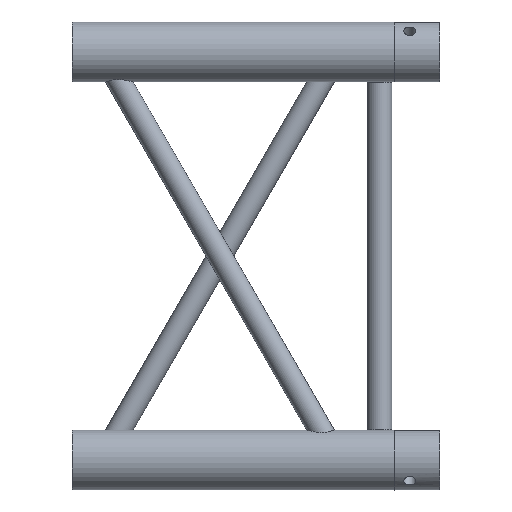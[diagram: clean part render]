
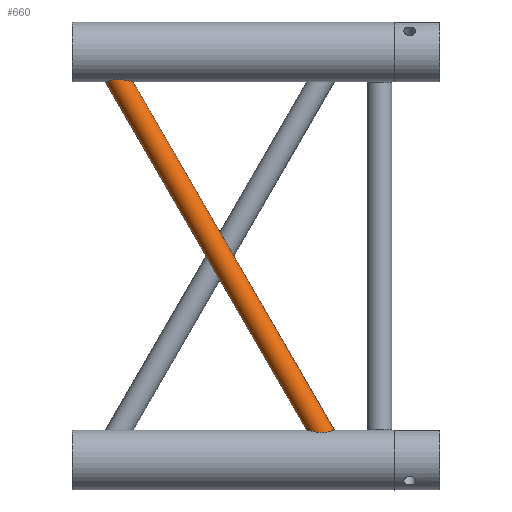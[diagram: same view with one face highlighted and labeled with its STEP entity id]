
A CAD part, front view. The second image highlights one B-rep face of the part: STEP entity #660.
In plain terms, the highlighted cylindrical face has radius 10 mm (diameter 20 mm), a full revolution.
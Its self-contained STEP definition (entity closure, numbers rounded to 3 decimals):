
#16=B_SPLINE_CURVE_WITH_KNOTS('',3,(#1081,#1082,#1083,#1084,#1085,#1086,
#1087,#1088,#1089,#1090,#1091,#1092,#1093,#1094,#1095,#1096,#1097,#1098,
#1099,#1100,#1101,#1102,#1103,#1104,#1105,#1106,#1107,#1108,#1109,#1110,
#1111,#1112,#1113,#1114),.UNSPECIFIED.,.T.,.F.,(4,2,2,2,2,2,2,2,2,2,2,2,
2,2,2,2,4),(0.,0.48,0.961,1.344,1.727,
2.111,2.494,2.974,3.455,3.858,
4.262,4.64,5.019,5.397,5.775,
6.179,6.583),.UNSPECIFIED.);
#17=B_SPLINE_CURVE_WITH_KNOTS('',3,(#1116,#1117,#1118,#1119,#1120,#1121,
#1122,#1123,#1124,#1125,#1126,#1127,#1128,#1129,#1130,#1131,#1132,#1133,
#1134,#1135,#1136,#1137,#1138,#1139,#1140,#1141,#1142,#1143,#1144,#1145,
#1146,#1147,#1148,#1149,#1150,#1151,#1152,#1153),.UNSPECIFIED.,.T.,.F.,
(4,2,2,2,2,2,2,2,2,2,2,2,2,2,2,2,2,2,4),(0.,0.452,0.905,
1.317,1.523,1.729,1.935,2.141,
2.552,3.005,3.457,3.864,4.271,
4.646,5.021,5.396,5.771,6.178,
6.586),.UNSPECIFIED.);
#43=FACE_BOUND('',#181,.T.);
#91=CYLINDRICAL_SURFACE('',#726,10.);
#127=FACE_OUTER_BOUND('',#180,.T.);
#180=EDGE_LOOP('',(#468));
#181=EDGE_LOOP('',(#469));
#316=VERTEX_POINT('',#1080);
#317=VERTEX_POINT('',#1115);
#380=EDGE_CURVE('',#316,#316,#16,.T.);
#381=EDGE_CURVE('',#317,#317,#17,.T.);
#468=ORIENTED_EDGE('',*,*,#380,.F.);
#469=ORIENTED_EDGE('',*,*,#381,.F.);
#660=ADVANCED_FACE('',(#127,#43),#91,.T.);
#726=AXIS2_PLACEMENT_3D('',#1079,#853,#854);
#853=DIRECTION('center_axis',(-0.5,0.,0.866));
#854=DIRECTION('ref_axis',(-0.866,0.,-0.5));
#1079=CARTESIAN_POINT('Origin',(100.826,-267.925,51.475));
#1080=CARTESIAN_POINT('',(109.487,-267.925,56.475));
#1081=CARTESIAN_POINT('Ctrl Pts',(99.145,-277.925,54.388));
#1082=CARTESIAN_POINT('Ctrl Pts',(97.544,-277.925,54.388));
#1083=CARTESIAN_POINT('Ctrl Pts',(95.84,-277.627,54.524));
#1084=CARTESIAN_POINT('Ctrl Pts',(92.643,-276.493,54.969));
#1085=CARTESIAN_POINT('Ctrl Pts',(91.148,-275.658,55.272));
#1086=CARTESIAN_POINT('Ctrl Pts',(88.962,-273.854,55.776));
#1087=CARTESIAN_POINT('Ctrl Pts',(88.04,-272.832,56.017));
#1088=CARTESIAN_POINT('Ctrl Pts',(86.753,-270.508,56.369));
#1089=CARTESIAN_POINT('Ctrl Pts',(86.393,-269.202,56.475));
#1090=CARTESIAN_POINT('Ctrl Pts',(86.393,-266.647,56.475));
#1091=CARTESIAN_POINT('Ctrl Pts',(86.753,-265.341,56.369));
#1092=CARTESIAN_POINT('Ctrl Pts',(88.04,-263.017,56.017));
#1093=CARTESIAN_POINT('Ctrl Pts',(88.962,-261.995,55.776));
#1094=CARTESIAN_POINT('Ctrl Pts',(91.148,-260.191,55.272));
#1095=CARTESIAN_POINT('Ctrl Pts',(92.643,-259.356,54.969));
#1096=CARTESIAN_POINT('Ctrl Pts',(95.84,-258.222,54.524));
#1097=CARTESIAN_POINT('Ctrl Pts',(97.544,-257.925,54.388));
#1098=CARTESIAN_POINT('Ctrl Pts',(100.49,-257.925,54.388));
#1099=CARTESIAN_POINT('Ctrl Pts',(101.937,-258.142,54.488));
#1100=CARTESIAN_POINT('Ctrl Pts',(104.577,-259.135,54.886));
#1101=CARTESIAN_POINT('Ctrl Pts',(105.77,-259.915,55.178));
#1102=CARTESIAN_POINT('Ctrl Pts',(107.56,-261.733,55.714));
#1103=CARTESIAN_POINT('Ctrl Pts',(108.292,-262.854,55.988));
#1104=CARTESIAN_POINT('Ctrl Pts',(109.255,-265.319,56.371));
#1105=CARTESIAN_POINT('Ctrl Pts',(109.487,-266.663,56.475));
#1106=CARTESIAN_POINT('Ctrl Pts',(109.487,-269.186,56.475));
#1107=CARTESIAN_POINT('Ctrl Pts',(109.255,-270.53,56.371));
#1108=CARTESIAN_POINT('Ctrl Pts',(108.292,-272.995,55.988));
#1109=CARTESIAN_POINT('Ctrl Pts',(107.56,-274.116,55.714));
#1110=CARTESIAN_POINT('Ctrl Pts',(105.77,-275.934,55.178));
#1111=CARTESIAN_POINT('Ctrl Pts',(104.577,-276.714,54.886));
#1112=CARTESIAN_POINT('Ctrl Pts',(101.937,-277.707,54.488));
#1113=CARTESIAN_POINT('Ctrl Pts',(100.49,-277.925,54.388));
#1114=CARTESIAN_POINT('Ctrl Pts',(99.145,-277.925,54.388));
#1115=CARTESIAN_POINT('',(-80.462,-267.925,345.475));
#1116=CARTESIAN_POINT('Ctrl Pts',(-70.12,-277.925,347.563));
#1117=CARTESIAN_POINT('Ctrl Pts',(-68.611,-277.925,347.563));
#1118=CARTESIAN_POINT('Ctrl Pts',(-67.,-277.659,347.442));
#1119=CARTESIAN_POINT('Ctrl Pts',(-63.957,-276.642,347.038));
#1120=CARTESIAN_POINT('Ctrl Pts',(-62.524,-275.89,346.76));
#1121=CARTESIAN_POINT('Ctrl Pts',(-60.26,-274.181,346.256));
#1122=CARTESIAN_POINT('Ctrl Pts',(-59.23,-273.124,345.991));
#1123=CARTESIAN_POINT('Ctrl Pts',(-58.143,-271.294,345.696));
#1124=CARTESIAN_POINT('Ctrl Pts',(-57.855,-270.644,345.615));
#1125=CARTESIAN_POINT('Ctrl Pts',(-57.467,-269.302,345.504));
#1126=CARTESIAN_POINT('Ctrl Pts',(-57.368,-268.611,345.475));
#1127=CARTESIAN_POINT('Ctrl Pts',(-57.368,-267.238,345.475));
#1128=CARTESIAN_POINT('Ctrl Pts',(-57.467,-266.547,345.504));
#1129=CARTESIAN_POINT('Ctrl Pts',(-57.855,-265.206,345.615));
#1130=CARTESIAN_POINT('Ctrl Pts',(-58.143,-264.555,345.696));
#1131=CARTESIAN_POINT('Ctrl Pts',(-59.23,-262.725,345.991));
#1132=CARTESIAN_POINT('Ctrl Pts',(-60.26,-261.668,346.256));
#1133=CARTESIAN_POINT('Ctrl Pts',(-62.524,-259.959,346.76));
#1134=CARTESIAN_POINT('Ctrl Pts',(-63.957,-259.207,347.038));
#1135=CARTESIAN_POINT('Ctrl Pts',(-67.,-258.19,347.442));
#1136=CARTESIAN_POINT('Ctrl Pts',(-68.611,-257.925,347.563));
#1137=CARTESIAN_POINT('Ctrl Pts',(-71.476,-257.925,347.563));
#1138=CARTESIAN_POINT('Ctrl Pts',(-72.935,-258.146,347.461));
#1139=CARTESIAN_POINT('Ctrl Pts',(-75.591,-259.155,347.058));
#1140=CARTESIAN_POINT('Ctrl Pts',(-76.789,-259.947,346.762));
#1141=CARTESIAN_POINT('Ctrl Pts',(-78.566,-261.778,346.226));
#1142=CARTESIAN_POINT('Ctrl Pts',(-79.287,-262.893,345.956));
#1143=CARTESIAN_POINT('Ctrl Pts',(-80.233,-265.342,345.578));
#1144=CARTESIAN_POINT('Ctrl Pts',(-80.462,-266.675,345.475));
#1145=CARTESIAN_POINT('Ctrl Pts',(-80.462,-269.175,345.475));
#1146=CARTESIAN_POINT('Ctrl Pts',(-80.233,-270.508,345.578));
#1147=CARTESIAN_POINT('Ctrl Pts',(-79.287,-272.956,345.956));
#1148=CARTESIAN_POINT('Ctrl Pts',(-78.566,-274.071,346.226));
#1149=CARTESIAN_POINT('Ctrl Pts',(-76.789,-275.902,346.762));
#1150=CARTESIAN_POINT('Ctrl Pts',(-75.591,-276.694,347.058));
#1151=CARTESIAN_POINT('Ctrl Pts',(-72.935,-277.703,347.461));
#1152=CARTESIAN_POINT('Ctrl Pts',(-71.476,-277.925,347.563));
#1153=CARTESIAN_POINT('Ctrl Pts',(-70.12,-277.925,347.563));
